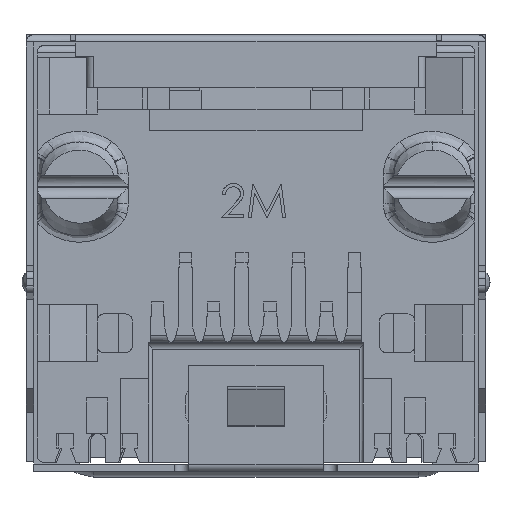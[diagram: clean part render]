
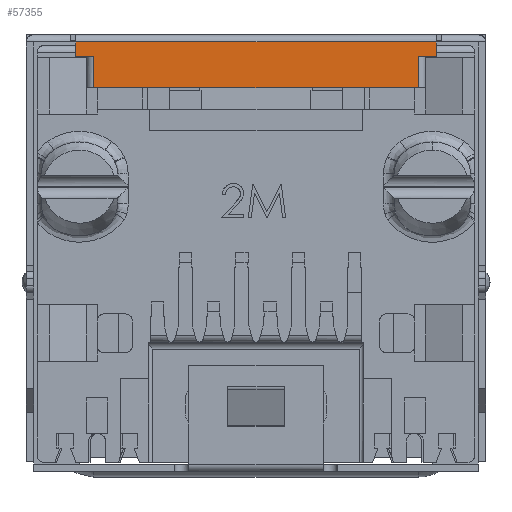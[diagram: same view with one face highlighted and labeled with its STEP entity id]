
A CAD part, front view. The second image highlights one B-rep face of the part: STEP entity #57355.
In plain terms, the highlighted planar face has unit normal (0, -1, 0).
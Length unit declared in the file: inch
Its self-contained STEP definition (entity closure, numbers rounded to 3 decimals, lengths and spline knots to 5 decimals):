
#1021 = ORIENTED_EDGE ( 'NONE', *, *, #52907, .T. ) ;
#1130 = VERTEX_POINT ( 'NONE', #32256 ) ;
#3321 = CARTESIAN_POINT ( 'NONE',  ( -0.3289, -0.21095, 0.30293 ) ) ;
#4709 = EDGE_CURVE ( 'NONE', #12183, #78241, #69627, .T. ) ;
#4991 = DIRECTION ( 'NONE',  ( 1., 0., 0. ) ) ;
#5192 = VECTOR ( 'NONE', #13234, 39.37008 ) ;
#6409 = EDGE_CURVE ( 'NONE', #29068, #20317, #29598, .T. ) ;
#8859 = DIRECTION ( 'NONE',  ( 0., 0., 1. ) ) ;
#12183 = VERTEX_POINT ( 'NONE', #78215 ) ;
#12684 = CARTESIAN_POINT ( 'NONE',  ( -0.255, -0.21095, 0.28193 ) ) ;
#13135 = CARTESIAN_POINT ( 'NONE',  ( 0.255, -0.21095, 0.28193 ) ) ;
#13234 = DIRECTION ( 'NONE',  ( 1., 0., 0. ) ) ;
#13452 = AXIS2_PLACEMENT_3D ( 'NONE', #33246, #14181, #58335 ) ;
#13743 = EDGE_CURVE ( 'NONE', #20317, #1130, #58812, .T. ) ;
#13944 = ORIENTED_EDGE ( 'NONE', *, *, #72393, .F. ) ;
#14181 = DIRECTION ( 'NONE',  ( 0., -1., 0. ) ) ;
#15584 = EDGE_CURVE ( 'NONE', #74809, #1130, #35231, .T. ) ;
#17004 = CARTESIAN_POINT ( 'NONE',  ( 0.23, -0.21095, 0.23793 ) ) ;
#19484 = VECTOR ( 'NONE', #69933, 39.37008 ) ;
#20317 = VERTEX_POINT ( 'NONE', #81843 ) ;
#23743 = CARTESIAN_POINT ( 'NONE',  ( -0.255, -0.21095, 0.30293 ) ) ;
#24471 = VECTOR ( 'NONE', #80395, 39.37008 ) ;
#24860 = VECTOR ( 'NONE', #43936, 39.37008 ) ;
#25471 = CARTESIAN_POINT ( 'NONE',  ( 0.23, -0.21095, 0.23793 ) ) ;
#26571 = LINE ( 'NONE', #58131, #47554 ) ;
#28084 = ORIENTED_EDGE ( 'NONE', *, *, #77148, .T. ) ;
#29068 = VERTEX_POINT ( 'NONE', #17004 ) ;
#29197 = VERTEX_POINT ( 'NONE', #23743 ) ;
#29598 = LINE ( 'NONE', #75552, #19484 ) ;
#30479 = ORIENTED_EDGE ( 'NONE', *, *, #4709, .T. ) ;
#31370 = CARTESIAN_POINT ( 'NONE',  ( -0.23, -0.21095, 0.28193 ) ) ;
#31999 = VECTOR ( 'NONE', #56986, 39.37008 ) ;
#32256 = CARTESIAN_POINT ( 'NONE',  ( -0.23, -0.21095, 0.28193 ) ) ;
#32670 = PLANE ( 'NONE',  #13452 ) ;
#32928 = VECTOR ( 'NONE', #4991, 39.37008 ) ;
#33246 = CARTESIAN_POINT ( 'NONE',  ( -0.255, -0.21095, 0.23793 ) ) ;
#35068 = LINE ( 'NONE', #25471, #31999 ) ;
#35231 = LINE ( 'NONE', #12684, #5192 ) ;
#36699 = VECTOR ( 'NONE', #8859, 39.37008 ) ;
#37482 = LINE ( 'NONE', #3321, #24471 ) ;
#38810 = ORIENTED_EDGE ( 'NONE', *, *, #71081, .T. ) ;
#43593 = VERTEX_POINT ( 'NONE', #82828 ) ;
#43936 = DIRECTION ( 'NONE',  ( 0., 0., 1. ) ) ;
#46567 = ORIENTED_EDGE ( 'NONE', *, *, #6409, .F. ) ;
#47554 = VECTOR ( 'NONE', #69931, 39.37008 ) ;
#49095 = EDGE_LOOP ( 'NONE', ( #28084, #30479, #13944, #38810, #76036, #80004, #46567, #1021 ) ) ;
#51175 = CARTESIAN_POINT ( 'NONE',  ( 0.255, -0.21095, 0.30293 ) ) ;
#52907 = EDGE_CURVE ( 'NONE', #29068, #43593, #35068, .T. ) ;
#52989 = CARTESIAN_POINT ( 'NONE',  ( 0.255, -0.21095, 0.23793 ) ) ;
#56986 = DIRECTION ( 'NONE',  ( 0., 0., 1. ) ) ;
#57355 = ADVANCED_FACE ( 'NONE', ( #70877 ), #32670, .T. ) ;
#58131 = CARTESIAN_POINT ( 'NONE',  ( -0.255, -0.21095, 0.23793 ) ) ;
#58335 = DIRECTION ( 'NONE',  ( 0., 0., -1. ) ) ;
#58812 = LINE ( 'NONE', #31370, #24860 ) ;
#69627 = LINE ( 'NONE', #52989, #36699 ) ;
#69931 = DIRECTION ( 'NONE',  ( 0., 0., -1. ) ) ;
#69933 = DIRECTION ( 'NONE',  ( -1., 0., 0. ) ) ;
#70877 = FACE_OUTER_BOUND ( 'NONE', #49095, .T. ) ;
#71081 = EDGE_CURVE ( 'NONE', #29197, #74809, #26571, .T. ) ;
#71908 = LINE ( 'NONE', #13135, #32928 ) ;
#72393 = EDGE_CURVE ( 'NONE', #29197, #78241, #37482, .T. ) ;
#74809 = VERTEX_POINT ( 'NONE', #77447 ) ;
#75552 = CARTESIAN_POINT ( 'NONE',  ( 0.24, -0.21095, 0.23793 ) ) ;
#76036 = ORIENTED_EDGE ( 'NONE', *, *, #15584, .T. ) ;
#77148 = EDGE_CURVE ( 'NONE', #43593, #12183, #71908, .T. ) ;
#77447 = CARTESIAN_POINT ( 'NONE',  ( -0.255, -0.21095, 0.28193 ) ) ;
#78215 = CARTESIAN_POINT ( 'NONE',  ( 0.255, -0.21095, 0.28193 ) ) ;
#78241 = VERTEX_POINT ( 'NONE', #51175 ) ;
#80004 = ORIENTED_EDGE ( 'NONE', *, *, #13743, .F. ) ;
#80395 = DIRECTION ( 'NONE',  ( 1., 0., 0. ) ) ;
#81843 = CARTESIAN_POINT ( 'NONE',  ( -0.23, -0.21095, 0.23793 ) ) ;
#82828 = CARTESIAN_POINT ( 'NONE',  ( 0.23, -0.21095, 0.28193 ) ) ;
